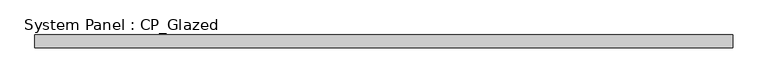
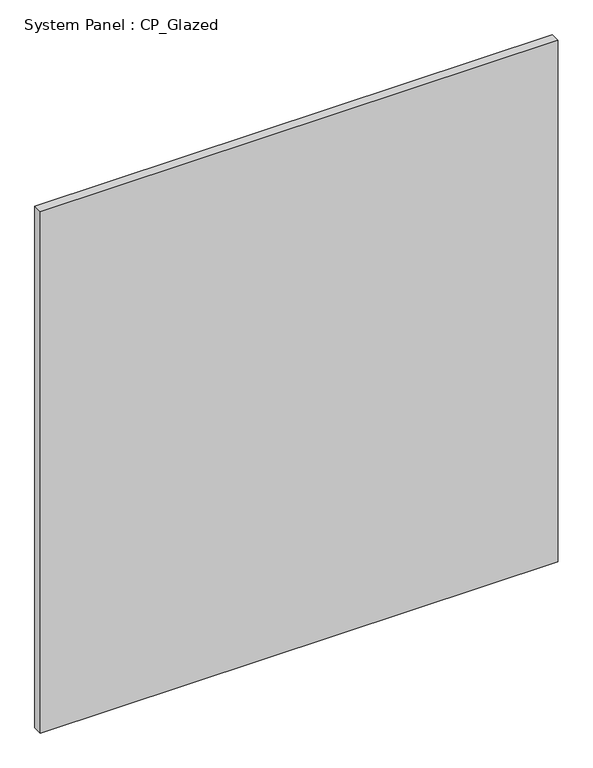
"""IFC4 building model written with IfcOpenShell, lengths in millimetres: plate geometry, System Panel : CP_Glazed."""

from ifc_helpers import new_model, si_unit, origin, origin_with_axes, place, context, project, spatial, polyline, outline, extrude, source, transform, mapped, element, save


def system_panel_cp_glazed_726030be(model_context):
    return source(origin(), model_context, "Body", "SweptSolid", [
        extrude(outline(polyline([(694.9514706, -44.45), (-694.9514706, -44.45), (-694.9514706, -19.05), (694.9514706, -19.05), (694.9514706, -44.45)])), origin_with_axes(), (0.0, 0.0, 1.0), 1479.55),
    ])


if __name__ == "__main__":
    model = new_model("IFC4")
    model_context = context("Model", 3, world=origin())
    ifc_project = project(units=[si_unit("LENGTHUNIT", "METRE", prefix="MILLI")], contexts=[model_context])
    site = spatial("IfcSite", under=ifc_project)
    building = spatial("IfcBuilding", under=site)
    placement = place(None, origin())
    system_panel_cp_glazed_shape = system_panel_cp_glazed_726030be(model_context)
    element("IfcPlate", 1, ObjectType="System Panel : CP_Glazed", at=placement, inside=building, context=model_context, shape_type="MappedRepresentation", body=[
        mapped(system_panel_cp_glazed_shape, transform((0.0, 0.0, 0.0), x_axis=(1.0, 0.0, 0.0), y_axis=(0.0, 1.0, 0.0), z_axis=(0.0, 0.0, 1.0))),
    ])
    save(model, "model.ifc")
